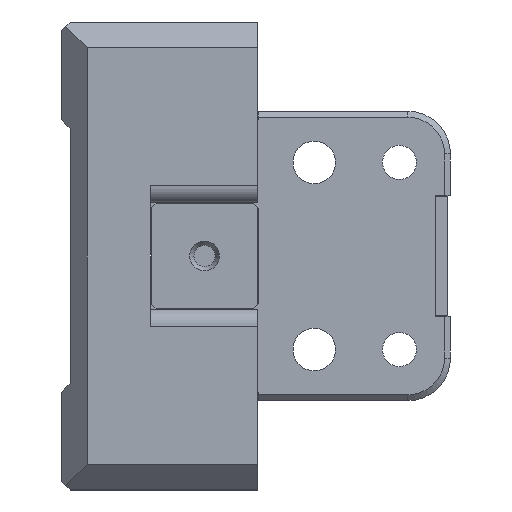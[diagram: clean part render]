
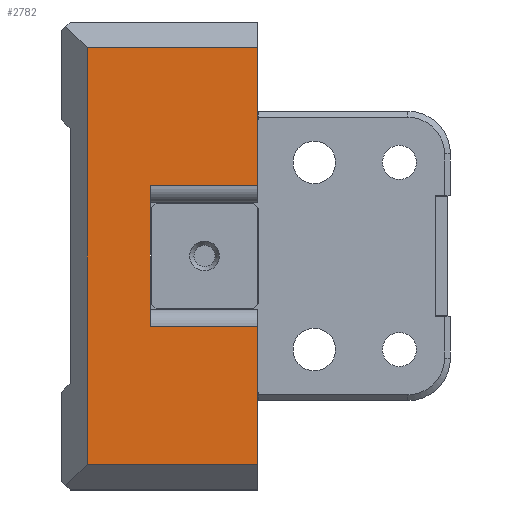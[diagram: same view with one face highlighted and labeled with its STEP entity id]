
A CAD part, left-side view. The second image highlights one B-rep face of the part: STEP entity #2782.
In plain terms, the highlighted planar face has unit normal (-1, 0, 0).
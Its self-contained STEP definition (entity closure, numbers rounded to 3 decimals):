
#82 = EDGE_CURVE ( 'NONE', #3788, #165, #4222, .T. ) ;
#84 = VERTEX_POINT ( 'NONE', #3321 ) ;
#115 = CARTESIAN_POINT ( 'NONE',  ( -130., -10.4, 8.25 ) ) ;
#165 = VERTEX_POINT ( 'NONE', #4015 ) ;
#217 = LINE ( 'NONE', #5054, #4584 ) ;
#263 = DIRECTION ( 'NONE',  ( 0., 1., 0. ) ) ;
#351 = VERTEX_POINT ( 'NONE', #4371 ) ;
#464 = VERTEX_POINT ( 'NONE', #3171 ) ;
#537 = AXIS2_PLACEMENT_3D ( 'NONE', #4569, #4940, #788 ) ;
#615 = LINE ( 'NONE', #4178, #3750 ) ;
#750 = CARTESIAN_POINT ( 'NONE',  ( -130., -23., 24.5 ) ) ;
#777 = EDGE_CURVE ( 'NONE', #1353, #4721, #615, .T. ) ;
#788 = DIRECTION ( 'NONE',  ( 0., 0., 1. ) ) ;
#789 = EDGE_CURVE ( 'NONE', #351, #464, #1544, .T. ) ;
#846 = EDGE_CURVE ( 'NONE', #464, #165, #217, .T. ) ;
#973 = ORIENTED_EDGE ( 'NONE', *, *, #2545, .T. ) ;
#1317 = PLANE ( 'NONE',  #537 ) ;
#1337 = FACE_OUTER_BOUND ( 'NONE', #4535, .T. ) ;
#1353 = VERTEX_POINT ( 'NONE', #3152 ) ;
#1435 = DIRECTION ( 'NONE',  ( 0., 0., 1. ) ) ;
#1486 = LINE ( 'NONE', #115, #4648 ) ;
#1532 = VECTOR ( 'NONE', #263, 1000. ) ;
#1544 = LINE ( 'NONE', #5029, #2635 ) ;
#1674 = ORIENTED_EDGE ( 'NONE', *, *, #82, .T. ) ;
#1731 = ORIENTED_EDGE ( 'NONE', *, *, #2147, .T. ) ;
#1884 = DIRECTION ( 'NONE',  ( 0., -1., 0. ) ) ;
#1951 = CARTESIAN_POINT ( 'NONE',  ( -130., -23., 24.5 ) ) ;
#2030 = CARTESIAN_POINT ( 'NONE',  ( -130., -23., -27.5 ) ) ;
#2069 = CARTESIAN_POINT ( 'NONE',  ( -130., -23., -24.5 ) ) ;
#2099 = LINE ( 'NONE', #2030, #2226 ) ;
#2147 = EDGE_CURVE ( 'NONE', #4721, #3788, #2365, .T. ) ;
#2148 = DIRECTION ( 'NONE',  ( 0., -1., 0. ) ) ;
#2150 = EDGE_CURVE ( 'NONE', #84, #2509, #2099, .T. ) ;
#2226 = VECTOR ( 'NONE', #1435, 1000. ) ;
#2365 = LINE ( 'NONE', #2069, #3343 ) ;
#2509 = VERTEX_POINT ( 'NONE', #1951 ) ;
#2545 = EDGE_CURVE ( 'NONE', #2509, #1353, #3464, .T. ) ;
#2635 = VECTOR ( 'NONE', #5113, 1000. ) ;
#2711 = ORIENTED_EDGE ( 'NONE', *, *, #777, .T. ) ;
#2782 = ADVANCED_FACE ( 'NONE', ( #1337 ), #1317, .T. ) ;
#3034 = CARTESIAN_POINT ( 'NONE',  ( -130., -23., -27.5 ) ) ;
#3044 = ORIENTED_EDGE ( 'NONE', *, *, #5012, .T. ) ;
#3096 = VECTOR ( 'NONE', #3457, 1000. ) ;
#3152 = CARTESIAN_POINT ( 'NONE',  ( -130., -3., 24.5 ) ) ;
#3171 = CARTESIAN_POINT ( 'NONE',  ( -130., -10.4, -8.25 ) ) ;
#3321 = CARTESIAN_POINT ( 'NONE',  ( -130., -23., 8.25 ) ) ;
#3343 = VECTOR ( 'NONE', #1884, 1000. ) ;
#3430 = ORIENTED_EDGE ( 'NONE', *, *, #789, .F. ) ;
#3457 = DIRECTION ( 'NONE',  ( 0., 0., 1. ) ) ;
#3464 = LINE ( 'NONE', #750, #1532 ) ;
#3625 = ORIENTED_EDGE ( 'NONE', *, *, #846, .F. ) ;
#3750 = VECTOR ( 'NONE', #4321, 1000. ) ;
#3788 = VERTEX_POINT ( 'NONE', #5282 ) ;
#4015 = CARTESIAN_POINT ( 'NONE',  ( -130., -23., -8.25 ) ) ;
#4080 = ORIENTED_EDGE ( 'NONE', *, *, #2150, .T. ) ;
#4091 = DIRECTION ( 'NONE',  ( 0., -1., 0. ) ) ;
#4178 = CARTESIAN_POINT ( 'NONE',  ( -130., -3., -27.5 ) ) ;
#4222 = LINE ( 'NONE', #3034, #3096 ) ;
#4321 = DIRECTION ( 'NONE',  ( 0., 0., -1. ) ) ;
#4371 = CARTESIAN_POINT ( 'NONE',  ( -130., -10.4, 8.25 ) ) ;
#4535 = EDGE_LOOP ( 'NONE', ( #2711, #1731, #1674, #3625, #3430, #3044, #4080, #973 ) ) ;
#4569 = CARTESIAN_POINT ( 'NONE',  ( -130., -23., -27.5 ) ) ;
#4584 = VECTOR ( 'NONE', #4091, 1000. ) ;
#4648 = VECTOR ( 'NONE', #2148, 1000. ) ;
#4721 = VERTEX_POINT ( 'NONE', #4867 ) ;
#4867 = CARTESIAN_POINT ( 'NONE',  ( -130., -3., -24.5 ) ) ;
#4940 = DIRECTION ( 'NONE',  ( -1., 0., 0. ) ) ;
#5012 = EDGE_CURVE ( 'NONE', #351, #84, #1486, .T. ) ;
#5029 = CARTESIAN_POINT ( 'NONE',  ( -130., -10.4, -8.25 ) ) ;
#5054 = CARTESIAN_POINT ( 'NONE',  ( -130., -10.4, -8.25 ) ) ;
#5113 = DIRECTION ( 'NONE',  ( 0., 0., -1. ) ) ;
#5282 = CARTESIAN_POINT ( 'NONE',  ( -130., -23., -24.5 ) ) ;
